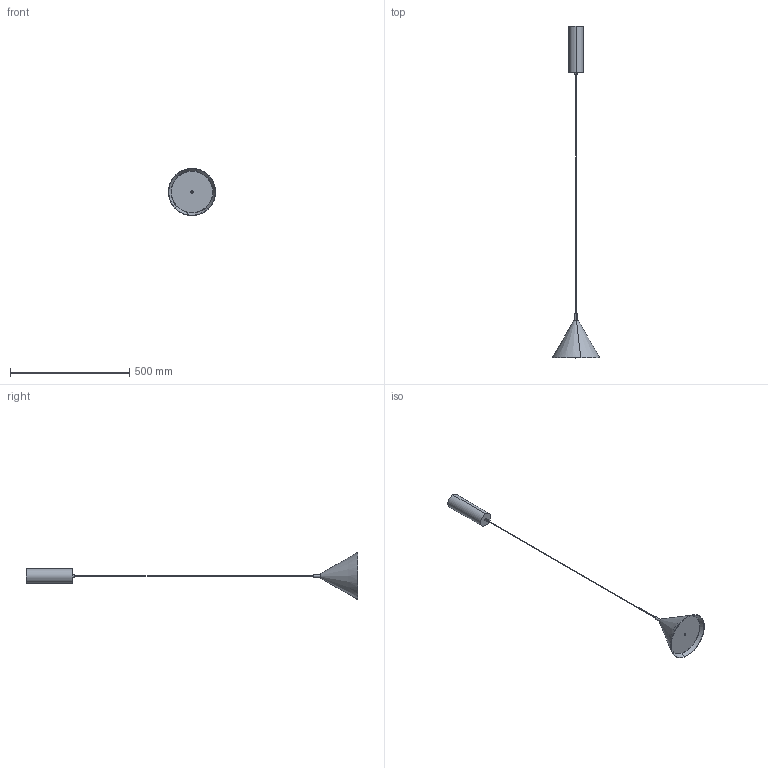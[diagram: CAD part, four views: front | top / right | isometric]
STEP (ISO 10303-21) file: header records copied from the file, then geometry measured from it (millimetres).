
FILE_DESCRIPTION (( 'STEP AP214' ), '1' );
FILE_NAME ('TRAG_C1340_20.STEP', '2024-12-19T11:46:53', ( '' ), ( '' ), 'SwSTEP 2.0', 'SolidWorks 2018', '' );
FILE_SCHEMA (( 'AUTOMOTIVE_DESIGN' ));
Length unit declared in the file: millimetre
Products named in the file (3): estructura; TRAG_C1340_20; colgante con20 sin bola
Assembly tree (2 placements, depth 2):
  TRAG_C1340_20
    estructura
    colgante con20 sin bola
Bounding box: 199.19 x 1392.62 x 199.19 mm (x, y, z)
Volume: 732149.4 mm3; surface area: 226320.3 mm2
Topology: 7 solids, 7 shells, 35 faces, 56 edges, 36 vertices
Faces by surface type: plane 15, cylinder 10, cone 6, torus 4
Entity records: 973 total; most frequent: DIRECTION 176, CARTESIAN_POINT 132, ORIENTED_EDGE 112, AXIS2_PLACEMENT_3D 80, EDGE_CURVE 56, CIRCLE 40, EDGE_LOOP 36, VERTEX_POINT 36
